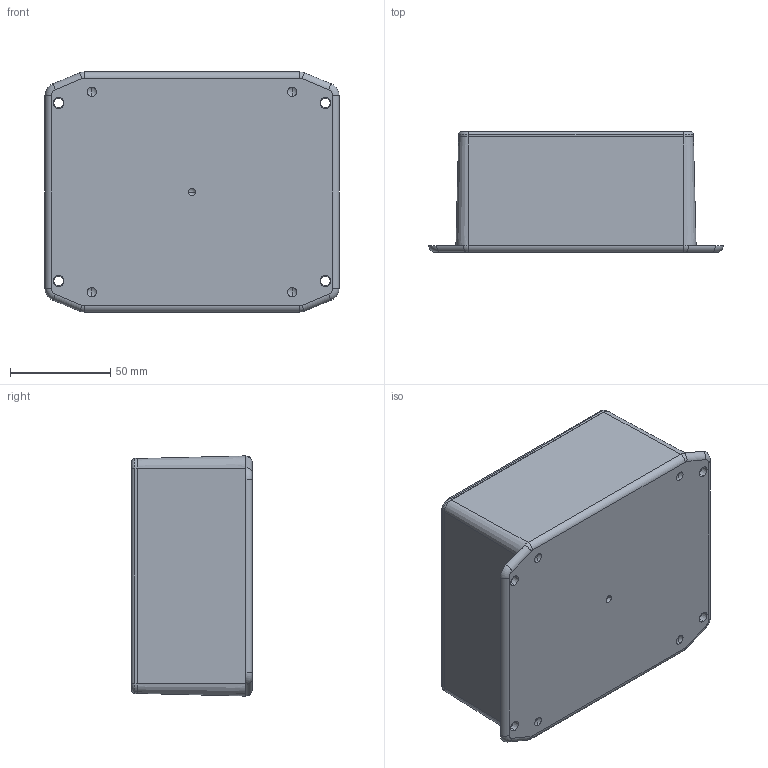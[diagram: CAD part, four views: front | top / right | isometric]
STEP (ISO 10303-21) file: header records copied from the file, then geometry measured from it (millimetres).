
FILE_DESCRIPTION (( 'STEP AP214' ), '1' );
FILE_NAME ('DC-44FMBYT_ASS''Y.STEP', '2010-08-23T12:08:37', ( '' ), ( '' ), 'SwSTEP 2.0', 'SolidWorks 2010', '' );
FILE_SCHEMA (( 'AUTOMOTIVE_DESIGN' ));
Length unit declared in the file: inch
Products named in the file (4): DC-44B_DC-44BFMBY; DC-44C_DC-44C-T; SCREWS-DC-BR; DC-44FMBYT_ASS''Y
Assembly tree (6 placements, depth 2):
  DC-44FMBYT_ASS''Y
    SCREWS-DC-BR  x4
    DC-44B_DC-44BFMBY
    DC-44C_DC-44C-T
Bounding box: 146.94 x 60.25 x 120 mm (x, y, z)
Volume: 188939.3 mm3; surface area: 122665.8 mm2
Topology: 10 solids, 10 shells, 456 faces, 1084 edges, 698 vertices
Faces by surface type: plane 168, cylinder 160, cone 88, torus 20, sphere 12, bspline 8
Entity records: 12067 total; most frequent: CARTESIAN_POINT 2123, DIRECTION 2004, ORIENTED_EDGE 1736, EDGE_CURVE 868, AXIS2_PLACEMENT_3D 813, VERTEX_POINT 560, EDGE_LOOP 446, CIRCLE 434
